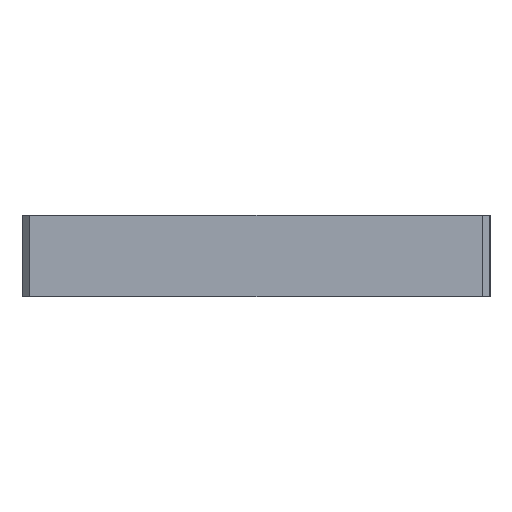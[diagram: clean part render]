
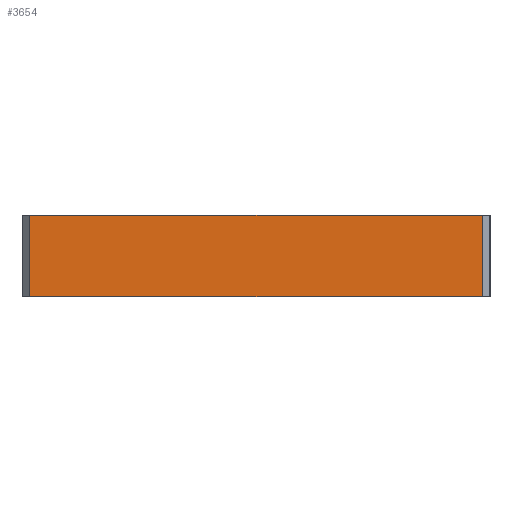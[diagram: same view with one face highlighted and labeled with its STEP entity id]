
A CAD part, left-side view. The second image highlights one B-rep face of the part: STEP entity #3654.
In plain terms, the highlighted planar face has unit normal (-1, 0, 0).
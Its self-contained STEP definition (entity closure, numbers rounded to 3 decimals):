
#3627=AXIS2_PLACEMENT_3D('Plane Axis2P3D',#3624,#3625,#3626) ;
#3457=CARTESIAN_POINT('Line Origine',(-200.,145.,-26.)) ;
#3461=CARTESIAN_POINT('Vertex',(-200.,145.,0.)) ;
#3463=CARTESIAN_POINT('Vertex',(-200.,145.,-52.)) ;
#3624=CARTESIAN_POINT('Axis2P3D Location',(-200.,-150.,0.)) ;
#3629=CARTESIAN_POINT('Line Origine',(-200.,0.,0.)) ;
#3633=CARTESIAN_POINT('Vertex',(-200.,-145.,0.)) ;
#3636=CARTESIAN_POINT('Line Origine',(-200.,0.,-52.)) ;
#3640=CARTESIAN_POINT('Vertex',(-200.,-145.,-52.)) ;
#3643=CARTESIAN_POINT('Line Origine',(-200.,-145.,-26.)) ;
#3458=DIRECTION('Vector Direction',(0.,0.,1.)) ;
#3625=DIRECTION('Axis2P3D Direction',(-1.,0.,0.)) ;
#3626=DIRECTION('Axis2P3D XDirection',(0.,1.,0.)) ;
#3630=DIRECTION('Vector Direction',(0.,1.,0.)) ;
#3637=DIRECTION('Vector Direction',(0.,1.,0.)) ;
#3644=DIRECTION('Vector Direction',(0.,0.,-1.)) ;
#3459=VECTOR('Line Direction',#3458,1.) ;
#3631=VECTOR('Line Direction',#3630,1.) ;
#3638=VECTOR('Line Direction',#3637,1.) ;
#3645=VECTOR('Line Direction',#3644,1.) ;
#3649=ORIENTED_EDGE('',*,*,#3635,.F.) ;
#3650=ORIENTED_EDGE('',*,*,#3465,.T.) ;
#3651=ORIENTED_EDGE('',*,*,#3642,.T.) ;
#3652=ORIENTED_EDGE('',*,*,#3647,.F.) ;
#3654=ADVANCED_FACE('PartBody',(#3653),#3628,.T.) ;
#3465=EDGE_CURVE('',#3462,#3464,#3460,.F.) ;
#3635=EDGE_CURVE('',#3462,#3634,#3632,.F.) ;
#3642=EDGE_CURVE('',#3464,#3641,#3639,.F.) ;
#3647=EDGE_CURVE('',#3634,#3641,#3646,.T.) ;
#3648=EDGE_LOOP('',(#3649,#3650,#3651,#3652)) ;
#3653=FACE_OUTER_BOUND('',#3648,.T.) ;
#3460=LINE('Line',#3457,#3459) ;
#3632=LINE('Line',#3629,#3631) ;
#3639=LINE('Line',#3636,#3638) ;
#3646=LINE('Line',#3643,#3645) ;
#3628=PLANE('',#3627) ;
#3462=VERTEX_POINT('',#3461) ;
#3464=VERTEX_POINT('',#3463) ;
#3634=VERTEX_POINT('',#3633) ;
#3641=VERTEX_POINT('',#3640) ;
